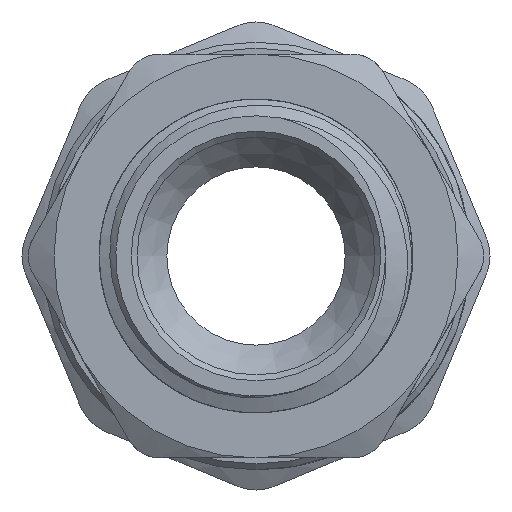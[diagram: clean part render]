
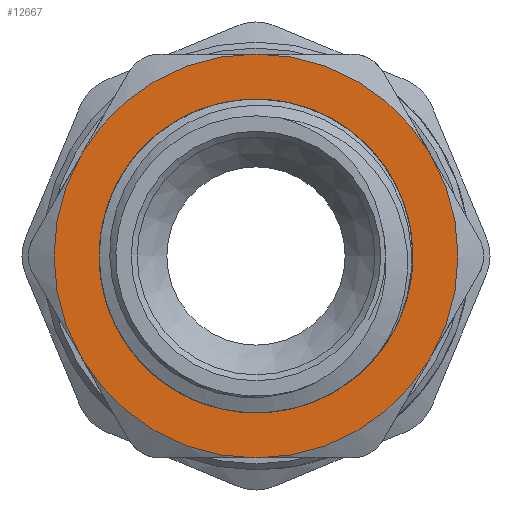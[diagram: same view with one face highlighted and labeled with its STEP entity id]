
A CAD part, left-side view. The second image highlights one B-rep face of the part: STEP entity #12667.
In plain terms, the highlighted planar face has unit normal (-1, 0, 0).
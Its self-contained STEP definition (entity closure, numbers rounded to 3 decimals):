
#155=FACE_BOUND('',#2062,.T.);
#325=PLANE('',#13121);
#1327=FACE_OUTER_BOUND('',#2061,.T.);
#2061=EDGE_LOOP('',(#11512,#11513,#11514,#11515,#11516,#11517));
#2062=EDGE_LOOP('',(#11518,#11519));
#2147=CIRCLE('',#12767,13.2);
#2148=CIRCLE('',#12768,13.2);
#2244=CIRCLE('',#13085,17.);
#2245=CIRCLE('',#13087,17.);
#2246=CIRCLE('',#13089,17.);
#2247=CIRCLE('',#13091,17.);
#2248=CIRCLE('',#13093,17.);
#2262=CIRCLE('',#13120,17.);
#4835=VERTEX_POINT('',#15636);
#4836=VERTEX_POINT('',#15638);
#5920=VERTEX_POINT('',#29455);
#5928=VERTEX_POINT('',#29503);
#5942=VERTEX_POINT('',#29584);
#5945=VERTEX_POINT('',#29603);
#5953=VERTEX_POINT('',#29651);
#5960=VERTEX_POINT('',#29698);
#6153=EDGE_CURVE('',#4835,#4836,#2147,.T.);
#6154=EDGE_CURVE('',#4836,#4835,#2148,.T.);
#7831=EDGE_CURVE('',#5945,#5942,#2244,.T.);
#7832=EDGE_CURVE('',#5942,#5928,#2245,.T.);
#7833=EDGE_CURVE('',#5953,#5945,#2246,.T.);
#7834=EDGE_CURVE('',#5928,#5920,#2247,.T.);
#7835=EDGE_CURVE('',#5960,#5953,#2248,.T.);
#7855=EDGE_CURVE('',#5920,#5960,#2262,.T.);
#11512=ORIENTED_EDGE('',*,*,#7835,.T.);
#11513=ORIENTED_EDGE('',*,*,#7833,.T.);
#11514=ORIENTED_EDGE('',*,*,#7831,.T.);
#11515=ORIENTED_EDGE('',*,*,#7832,.T.);
#11516=ORIENTED_EDGE('',*,*,#7834,.T.);
#11517=ORIENTED_EDGE('',*,*,#7855,.T.);
#11518=ORIENTED_EDGE('',*,*,#6154,.F.);
#11519=ORIENTED_EDGE('',*,*,#6153,.F.);
#12667=ADVANCED_FACE('',(#1327,#155),#325,.T.);
#12767=AXIS2_PLACEMENT_3D('',#15639,#13404,#13405);
#12768=AXIS2_PLACEMENT_3D('',#15640,#13406,#13407);
#13085=AXIS2_PLACEMENT_3D('',#29716,#14759,#14760);
#13087=AXIS2_PLACEMENT_3D('',#29718,#14763,#14764);
#13089=AXIS2_PLACEMENT_3D('',#29720,#14767,#14768);
#13091=AXIS2_PLACEMENT_3D('',#29722,#14771,#14772);
#13093=AXIS2_PLACEMENT_3D('',#29724,#14775,#14776);
#13120=AXIS2_PLACEMENT_3D('',#29768,#14835,#14836);
#13121=AXIS2_PLACEMENT_3D('',#29769,#14837,#14838);
#13404=DIRECTION('center_axis',(-1.,0.,0.));
#13405=DIRECTION('ref_axis',(0.,0.,1.));
#13406=DIRECTION('center_axis',(-1.,0.,0.));
#13407=DIRECTION('ref_axis',(0.,0.,1.));
#14759=DIRECTION('center_axis',(-1.,0.,0.));
#14760=DIRECTION('ref_axis',(0.,0.,1.));
#14763=DIRECTION('center_axis',(-1.,0.,0.));
#14764=DIRECTION('ref_axis',(0.,0.,1.));
#14767=DIRECTION('center_axis',(-1.,0.,0.));
#14768=DIRECTION('ref_axis',(0.,0.,1.));
#14771=DIRECTION('center_axis',(-1.,0.,0.));
#14772=DIRECTION('ref_axis',(0.,0.,1.));
#14775=DIRECTION('center_axis',(-1.,0.,0.));
#14776=DIRECTION('ref_axis',(0.,0.,1.));
#14835=DIRECTION('center_axis',(-1.,0.,0.));
#14836=DIRECTION('ref_axis',(0.,0.,1.));
#14837=DIRECTION('center_axis',(-1.,0.,0.));
#14838=DIRECTION('ref_axis',(0.,0.,1.));
#15636=CARTESIAN_POINT('',(-10.,13.2,0.));
#15638=CARTESIAN_POINT('',(-10.,-13.2,0.));
#15639=CARTESIAN_POINT('Origin',(-10.,0.,0.));
#15640=CARTESIAN_POINT('Origin',(-10.,0.,0.));
#29455=CARTESIAN_POINT('',(-10.,0.,-17.));
#29503=CARTESIAN_POINT('',(-10.,14.722,-8.5));
#29584=CARTESIAN_POINT('',(-10.,14.722,8.5));
#29603=CARTESIAN_POINT('',(-10.,0.,17.));
#29651=CARTESIAN_POINT('',(-10.,-14.722,8.5));
#29698=CARTESIAN_POINT('',(-10.,-14.722,-8.5));
#29716=CARTESIAN_POINT('Origin',(-10.,0.,0.));
#29718=CARTESIAN_POINT('Origin',(-10.,0.,0.));
#29720=CARTESIAN_POINT('Origin',(-10.,0.,0.));
#29722=CARTESIAN_POINT('Origin',(-10.,0.,0.));
#29724=CARTESIAN_POINT('Origin',(-10.,0.,0.));
#29768=CARTESIAN_POINT('Origin',(-10.,0.,0.));
#29769=CARTESIAN_POINT('Origin',(-10.,-13.2,0.));
